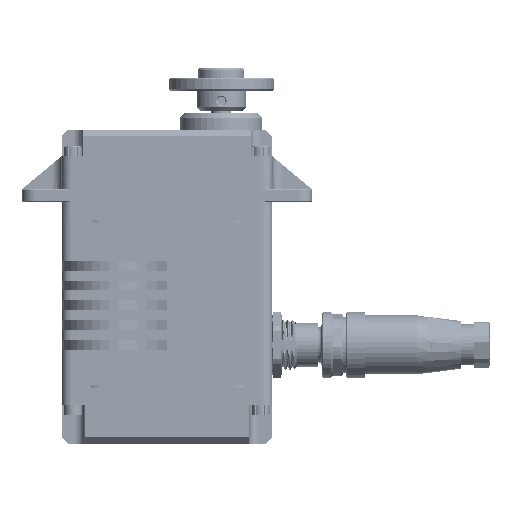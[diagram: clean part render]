
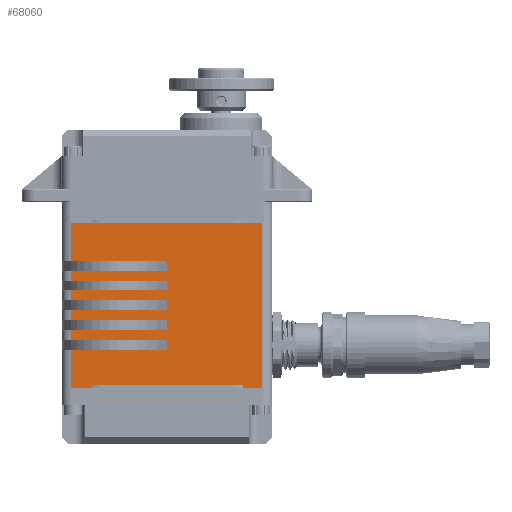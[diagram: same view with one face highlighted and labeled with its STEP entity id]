
A CAD part, top view. The second image highlights one B-rep face of the part: STEP entity #68060.
In plain terms, the highlighted planar face has unit normal (0, 0, 1).
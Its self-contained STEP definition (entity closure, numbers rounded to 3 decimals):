
#63169=DIRECTION('',(1.,0.,0.));
#63170=VECTOR('',#63169,58.);
#63171=CARTESIAN_POINT('',(-29.,0.,16.5));
#63172=LINE('',#63171,#63170);
#63645=DIRECTION('',(1.,0.,0.));
#63646=VECTOR('',#63645,29.);
#63647=CARTESIAN_POINT('',(-29.,-11.5,16.5));
#63648=LINE('',#63647,#63646);
#63652=DIRECTION('',(0.,-1.,0.));
#63653=VECTOR('',#63652,11.5);
#63654=CARTESIAN_POINT('',(-29.,0.,16.5));
#63655=LINE('',#63654,#63653);
#63659=DIRECTION('',(0.,1.,0.));
#63660=VECTOR('',#63659,0.8);
#63661=CARTESIAN_POINT('',(23.111,-50.,16.5));
#63662=LINE('',#63661,#63660);
#63666=DIRECTION('',(1.,0.,0.));
#63667=VECTOR('',#63666,46.223);
#63668=CARTESIAN_POINT('',(-23.111,-49.2,16.5));
#63669=LINE('',#63668,#63667);
#63673=DIRECTION('',(0.,1.,0.));
#63674=VECTOR('',#63673,0.8);
#63675=CARTESIAN_POINT('',(-23.111,-50.,16.5));
#63676=LINE('',#63675,#63674);
#63680=DIRECTION('',(0.,-1.,0.));
#63681=VECTOR('',#63680,11.5);
#63682=CARTESIAN_POINT('',(-29.,-38.5,16.5));
#63683=LINE('',#63682,#63681);
#63687=DIRECTION('',(1.,0.,0.));
#63688=VECTOR('',#63687,29.);
#63689=CARTESIAN_POINT('',(-29.,-38.5,16.5));
#63690=LINE('',#63689,#63688);
#63694=DIRECTION('',(0.,-1.,0.));
#63695=VECTOR('',#63694,3.);
#63696=CARTESIAN_POINT('',(0.,-35.5,16.5));
#63697=LINE('',#63696,#63695);
#63701=DIRECTION('',(1.,0.,0.));
#63702=VECTOR('',#63701,29.);
#63703=CARTESIAN_POINT('',(-29.,-35.5,16.5));
#63704=LINE('',#63703,#63702);
#63708=DIRECTION('',(0.,-1.,0.));
#63709=VECTOR('',#63708,3.);
#63710=CARTESIAN_POINT('',(-29.,-32.5,16.5));
#63711=LINE('',#63710,#63709);
#63715=DIRECTION('',(1.,0.,0.));
#63716=VECTOR('',#63715,29.);
#63717=CARTESIAN_POINT('',(-29.,-32.5,16.5));
#63718=LINE('',#63717,#63716);
#63722=DIRECTION('',(0.,-1.,0.));
#63723=VECTOR('',#63722,3.);
#63724=CARTESIAN_POINT('',(0.,-29.5,16.5));
#63725=LINE('',#63724,#63723);
#63729=DIRECTION('',(1.,0.,0.));
#63730=VECTOR('',#63729,29.);
#63731=CARTESIAN_POINT('',(-29.,-29.5,16.5));
#63732=LINE('',#63731,#63730);
#63736=DIRECTION('',(0.,-1.,0.));
#63737=VECTOR('',#63736,3.);
#63738=CARTESIAN_POINT('',(-29.,-26.5,16.5));
#63739=LINE('',#63738,#63737);
#63743=DIRECTION('',(1.,0.,0.));
#63744=VECTOR('',#63743,29.);
#63745=CARTESIAN_POINT('',(-29.,-26.5,16.5));
#63746=LINE('',#63745,#63744);
#63750=DIRECTION('',(0.,-1.,0.));
#63751=VECTOR('',#63750,3.);
#63752=CARTESIAN_POINT('',(0.,-23.5,16.5));
#63753=LINE('',#63752,#63751);
#63757=DIRECTION('',(1.,0.,0.));
#63758=VECTOR('',#63757,29.);
#63759=CARTESIAN_POINT('',(-29.,-23.5,16.5));
#63760=LINE('',#63759,#63758);
#63764=DIRECTION('',(0.,-1.,0.));
#63765=VECTOR('',#63764,3.);
#63766=CARTESIAN_POINT('',(-29.,-20.5,16.5));
#63767=LINE('',#63766,#63765);
#63771=DIRECTION('',(1.,0.,0.));
#63772=VECTOR('',#63771,29.);
#63773=CARTESIAN_POINT('',(-29.,-20.5,16.5));
#63774=LINE('',#63773,#63772);
#63778=DIRECTION('',(0.,-1.,0.));
#63779=VECTOR('',#63778,3.);
#63780=CARTESIAN_POINT('',(0.,-17.5,16.5));
#63781=LINE('',#63780,#63779);
#63785=DIRECTION('',(1.,0.,0.));
#63786=VECTOR('',#63785,29.);
#63787=CARTESIAN_POINT('',(-29.,-17.5,16.5));
#63788=LINE('',#63787,#63786);
#63792=DIRECTION('',(0.,-1.,0.));
#63793=VECTOR('',#63792,3.);
#63794=CARTESIAN_POINT('',(-29.,-14.5,16.5));
#63795=LINE('',#63794,#63793);
#63799=DIRECTION('',(1.,0.,0.));
#63800=VECTOR('',#63799,29.);
#63801=CARTESIAN_POINT('',(-29.,-14.5,16.5));
#63802=LINE('',#63801,#63800);
#63806=DIRECTION('',(0.,-1.,0.));
#63807=VECTOR('',#63806,3.);
#63808=CARTESIAN_POINT('',(0.,-11.5,16.5));
#63809=LINE('',#63808,#63807);
#63979=DIRECTION('',(1.,0.,0.));
#63980=VECTOR('',#63979,5.889);
#63981=CARTESIAN_POINT('',(-29.,-50.,16.5));
#63982=LINE('',#63981,#63980);
#63993=DIRECTION('',(1.,0.,0.));
#63994=VECTOR('',#63993,5.889);
#63995=CARTESIAN_POINT('',(23.111,-50.,16.5));
#63996=LINE('',#63995,#63994);
#64454=DIRECTION('',(0.,-1.,0.));
#64455=VECTOR('',#64454,50.);
#64456=CARTESIAN_POINT('',(29.,0.,16.5));
#64457=LINE('',#64456,#64455);
#66973=CARTESIAN_POINT('',(-29.,0.,16.5));
#66974=VERTEX_POINT('',#66973);
#66975=CARTESIAN_POINT('',(29.,0.,16.5));
#66976=VERTEX_POINT('',#66975);
#66988=CARTESIAN_POINT('',(-29.,-50.,16.5));
#66990=VERTEX_POINT('',#66988);
#66991=CARTESIAN_POINT('',(29.,-50.,16.5));
#66993=VERTEX_POINT('',#66991);
#67119=CARTESIAN_POINT('',(-23.111,-49.2,16.5));
#67120=CARTESIAN_POINT('',(23.111,-49.2,16.5));
#67121=VERTEX_POINT('',#67119);
#67122=VERTEX_POINT('',#67120);
#67135=CARTESIAN_POINT('',(-23.111,-50.,16.5));
#67136=VERTEX_POINT('',#67135);
#67137=CARTESIAN_POINT('',(23.111,-50.,16.5));
#67138=VERTEX_POINT('',#67137);
#67423=CARTESIAN_POINT('',(-29.,-38.5,16.5));
#67424=VERTEX_POINT('',#67423);
#67425=CARTESIAN_POINT('',(-29.,-35.5,16.5));
#67426=VERTEX_POINT('',#67425);
#67427=CARTESIAN_POINT('',(0.,-38.5,16.5));
#67428=VERTEX_POINT('',#67427);
#67429=CARTESIAN_POINT('',(0.,-35.5,16.5));
#67430=VERTEX_POINT('',#67429);
#67459=CARTESIAN_POINT('',(0.,-32.5,16.5));
#67460=VERTEX_POINT('',#67459);
#67463=CARTESIAN_POINT('',(0.,-29.5,16.5));
#67464=VERTEX_POINT('',#67463);
#67479=CARTESIAN_POINT('',(-29.,-32.5,16.5));
#67480=VERTEX_POINT('',#67479);
#67481=CARTESIAN_POINT('',(-29.,-29.5,16.5));
#67482=VERTEX_POINT('',#67481);
#67491=CARTESIAN_POINT('',(0.,-26.5,16.5));
#67492=VERTEX_POINT('',#67491);
#67495=CARTESIAN_POINT('',(0.,-23.5,16.5));
#67496=VERTEX_POINT('',#67495);
#67505=CARTESIAN_POINT('',(-29.,-23.5,16.5));
#67506=VERTEX_POINT('',#67505);
#67513=CARTESIAN_POINT('',(-29.,-26.5,16.5));
#67514=VERTEX_POINT('',#67513);
#67523=CARTESIAN_POINT('',(0.,-20.5,16.5));
#67524=VERTEX_POINT('',#67523);
#67527=CARTESIAN_POINT('',(0.,-17.5,16.5));
#67528=VERTEX_POINT('',#67527);
#67537=CARTESIAN_POINT('',(-29.,-17.5,16.5));
#67538=VERTEX_POINT('',#67537);
#67545=CARTESIAN_POINT('',(-29.,-20.5,16.5));
#67546=VERTEX_POINT('',#67545);
#67555=CARTESIAN_POINT('',(0.,-14.5,16.5));
#67556=VERTEX_POINT('',#67555);
#67559=CARTESIAN_POINT('',(0.,-11.5,16.5));
#67560=VERTEX_POINT('',#67559);
#67569=CARTESIAN_POINT('',(-29.,-11.5,16.5));
#67570=VERTEX_POINT('',#67569);
#67577=CARTESIAN_POINT('',(-29.,-14.5,16.5));
#67578=VERTEX_POINT('',#67577);
#68002=CARTESIAN_POINT('',(-29.,0.,16.5));
#68003=DIRECTION('',(0.,0.,1.));
#68004=DIRECTION('',(1.,0.,0.));
#68005=AXIS2_PLACEMENT_3D('',#68002,#68003,#68004);
#68006=PLANE('',#68005);
#68007=ORIENTED_EDGE('',*,*,#67949,.F.);
#68009=ORIENTED_EDGE('',*,*,#68008,.F.);
#68010=ORIENTED_EDGE('',*,*,#67667,.T.);
#68012=ORIENTED_EDGE('',*,*,#68011,.T.);
#68014=ORIENTED_EDGE('',*,*,#68013,.F.);
#68016=ORIENTED_EDGE('',*,*,#68015,.T.);
#68018=ORIENTED_EDGE('',*,*,#68017,.F.);
#68020=ORIENTED_EDGE('',*,*,#68019,.F.);
#68022=ORIENTED_EDGE('',*,*,#68021,.F.);
#68024=ORIENTED_EDGE('',*,*,#68023,.F.);
#68025=ORIENTED_EDGE('',*,*,#67855,.T.);
#68027=ORIENTED_EDGE('',*,*,#68026,.F.);
#68029=ORIENTED_EDGE('',*,*,#68028,.F.);
#68031=ORIENTED_EDGE('',*,*,#68030,.F.);
#68033=ORIENTED_EDGE('',*,*,#68032,.T.);
#68035=ORIENTED_EDGE('',*,*,#68034,.F.);
#68037=ORIENTED_EDGE('',*,*,#68036,.F.);
#68039=ORIENTED_EDGE('',*,*,#68038,.F.);
#68041=ORIENTED_EDGE('',*,*,#68040,.T.);
#68043=ORIENTED_EDGE('',*,*,#68042,.F.);
#68045=ORIENTED_EDGE('',*,*,#68044,.F.);
#68047=ORIENTED_EDGE('',*,*,#68046,.F.);
#68049=ORIENTED_EDGE('',*,*,#68048,.T.);
#68051=ORIENTED_EDGE('',*,*,#68050,.F.);
#68053=ORIENTED_EDGE('',*,*,#68052,.F.);
#68055=ORIENTED_EDGE('',*,*,#68054,.F.);
#68056=ORIENTED_EDGE('',*,*,#67987,.T.);
#68057=ORIENTED_EDGE('',*,*,#67976,.F.);
#68058=EDGE_LOOP('',(#68007,#68009,#68010,#68012,#68014,#68016,#68018,#68020,
#68022,#68024,#68025,#68027,#68029,#68031,#68033,#68035,#68037,#68039,#68041,
#68043,#68045,#68047,#68049,#68051,#68053,#68055,#68056,#68057));
#68059=FACE_OUTER_BOUND('',#68058,.F.);
#68060=ADVANCED_FACE('',(#68059),#68006,.T.);
#67667=EDGE_CURVE('',#66974,#66976,#63172,.T.);
#67855=EDGE_CURVE('',#67424,#67428,#63690,.T.);
#67949=EDGE_CURVE('',#67570,#67560,#63648,.T.);
#67976=EDGE_CURVE('',#67560,#67556,#63809,.T.);
#67987=EDGE_CURVE('',#67578,#67556,#63802,.T.);
#68008=EDGE_CURVE('',#66974,#67570,#63655,.T.);
#68011=EDGE_CURVE('',#66976,#66993,#64457,.T.);
#68013=EDGE_CURVE('',#67138,#66993,#63996,.T.);
#68015=EDGE_CURVE('',#67138,#67122,#63662,.T.);
#68017=EDGE_CURVE('',#67121,#67122,#63669,.T.);
#68019=EDGE_CURVE('',#67136,#67121,#63676,.T.);
#68021=EDGE_CURVE('',#66990,#67136,#63982,.T.);
#68023=EDGE_CURVE('',#67424,#66990,#63683,.T.);
#68026=EDGE_CURVE('',#67430,#67428,#63697,.T.);
#68028=EDGE_CURVE('',#67426,#67430,#63704,.T.);
#68030=EDGE_CURVE('',#67480,#67426,#63711,.T.);
#68032=EDGE_CURVE('',#67480,#67460,#63718,.T.);
#68034=EDGE_CURVE('',#67464,#67460,#63725,.T.);
#68036=EDGE_CURVE('',#67482,#67464,#63732,.T.);
#68038=EDGE_CURVE('',#67514,#67482,#63739,.T.);
#68040=EDGE_CURVE('',#67514,#67492,#63746,.T.);
#68042=EDGE_CURVE('',#67496,#67492,#63753,.T.);
#68044=EDGE_CURVE('',#67506,#67496,#63760,.T.);
#68046=EDGE_CURVE('',#67546,#67506,#63767,.T.);
#68048=EDGE_CURVE('',#67546,#67524,#63774,.T.);
#68050=EDGE_CURVE('',#67528,#67524,#63781,.T.);
#68052=EDGE_CURVE('',#67538,#67528,#63788,.T.);
#68054=EDGE_CURVE('',#67578,#67538,#63795,.T.);
